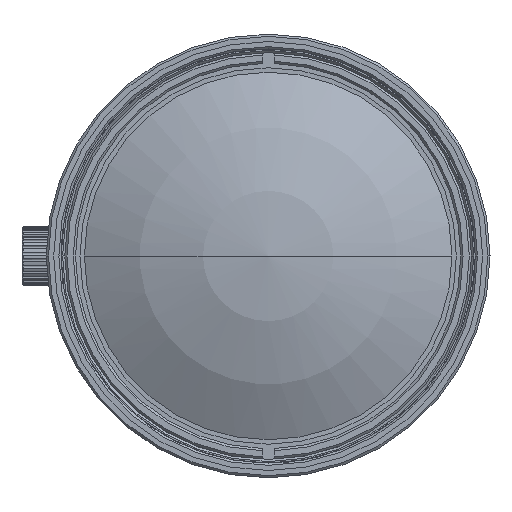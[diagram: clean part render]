
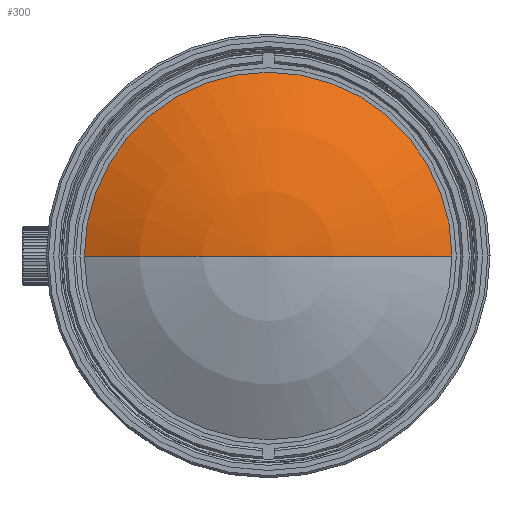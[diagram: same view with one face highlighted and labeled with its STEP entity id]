
A CAD part, left-side view. The second image highlights one B-rep face of the part: STEP entity #300.
In plain terms, the highlighted spherical face has radius 51.237 mm.
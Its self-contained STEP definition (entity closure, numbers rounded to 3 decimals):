
#112=CARTESIAN_POINT('',(351.237,0.,0.));
#113=DIRECTION('',(0.,0.,1.));
#114=DIRECTION('',(-1.,0.,0.));
#115=AXIS2_PLACEMENT_3D('',#112,#113,#114);
#117=CARTESIAN_POINT('',(306.727,0.,0.));
#118=DIRECTION('',(1.,0.,0.));
#119=DIRECTION('',(0.,-1.,0.));
#120=AXIS2_PLACEMENT_3D('',#117,#118,#119);
#122=CARTESIAN_POINT('',(351.237,0.,0.));
#123=DIRECTION('',(0.,0.,-1.));
#124=DIRECTION('',(-1.,0.,0.));
#125=AXIS2_PLACEMENT_3D('',#122,#123,#124);
#180=CARTESIAN_POINT('',(306.727,-25.379,0.));
#181=VERTEX_POINT('',#180);
#182=CARTESIAN_POINT('',(306.727,25.379,0.));
#183=VERTEX_POINT('',#182);
#184=CARTESIAN_POINT('',(300.,0.,0.));
#185=VERTEX_POINT('',#184);
#288=CARTESIAN_POINT('',(351.237,0.,0.));
#289=DIRECTION('',(-1.,0.,0.));
#290=DIRECTION('',(0.,-1.,0.));
#291=AXIS2_PLACEMENT_3D('',#288,#289,#290);
#292=SPHERICAL_SURFACE('',#291,51.237);
#294=ORIENTED_EDGE('',*,*,#293,.T.);
#295=ORIENTED_EDGE('',*,*,#283,.T.);
#297=ORIENTED_EDGE('',*,*,#296,.F.);
#298=EDGE_LOOP('',(#294,#295,#297));
#299=FACE_OUTER_BOUND('',#298,.F.);
#116=CIRCLE('',#115,51.237);
#121=CIRCLE('',#120,25.379);
#126=CIRCLE('',#125,51.237);
#283=EDGE_CURVE('',#181,#183,#121,.T.);
#293=EDGE_CURVE('',#185,#181,#116,.T.);
#296=EDGE_CURVE('',#185,#183,#126,.T.);
#300=ADVANCED_FACE('',(#299),#292,.T.);
